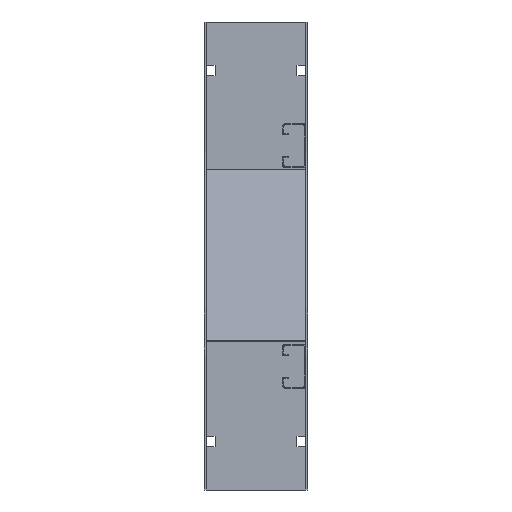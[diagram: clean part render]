
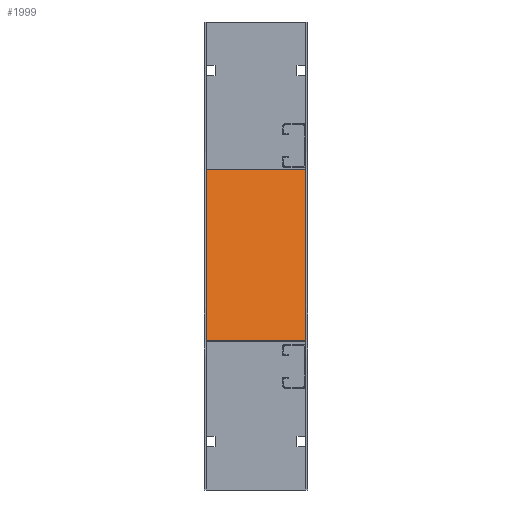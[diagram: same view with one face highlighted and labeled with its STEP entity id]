
A CAD part, left-side view. The second image highlights one B-rep face of the part: STEP entity #1999.
In plain terms, the highlighted planar face has unit normal (-0.5, 0, 0.866).
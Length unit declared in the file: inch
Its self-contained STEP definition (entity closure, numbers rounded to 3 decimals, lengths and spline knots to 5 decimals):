
#301=DIRECTION('',(-0.866,0.,-0.5));
#302=VECTOR('',#301,13.85641);
#303=CARTESIAN_POINT('',(-0.075,4.11,-5.9567));
#304=LINE('',#303,#302);
#537=DIRECTION('',(0.,1.,0.));
#538=VECTOR('',#537,4.03);
#539=CARTESIAN_POINT('',(-12.075,0.08,-12.8849));
#540=LINE('',#539,#538);
#721=DIRECTION('',(-0.866,0.,-0.5));
#722=VECTOR('',#721,13.85641);
#723=CARTESIAN_POINT('',(-0.075,0.08,-5.9567));
#724=LINE('',#723,#722);
#725=DIRECTION('',(0.,1.,0.));
#726=VECTOR('',#725,4.03);
#727=CARTESIAN_POINT('',(-0.075,0.08,-5.9567));
#728=LINE('',#727,#726);
#785=CARTESIAN_POINT('',(-0.075,0.08,-5.9567));
#786=CARTESIAN_POINT('',(-0.075,4.11,-5.9567));
#787=VERTEX_POINT('',#785);
#788=VERTEX_POINT('',#786);
#805=CARTESIAN_POINT('',(-12.075,0.08,-12.8849));
#806=CARTESIAN_POINT('',(-12.075,4.11,-12.8849));
#807=VERTEX_POINT('',#805);
#808=VERTEX_POINT('',#806);
#1988=CARTESIAN_POINT('',(-0.0375,0.08,-5.93505));
#1989=DIRECTION('',(-0.5,0.,0.866));
#1990=DIRECTION('',(0.,1.,0.));
#1991=AXIS2_PLACEMENT_3D('',#1988,#1989,#1990);
#1992=PLANE('',#1991);
#1993=ORIENTED_EDGE('',*,*,#1533,.T.);
#1994=ORIENTED_EDGE('',*,*,#1718,.T.);
#1995=ORIENTED_EDGE('',*,*,#1458,.F.);
#1996=ORIENTED_EDGE('',*,*,#1503,.F.);
#1997=EDGE_LOOP('',(#1993,#1994,#1995,#1996));
#1998=FACE_OUTER_BOUND('',#1997,.F.);
#1999=ADVANCED_FACE('',(#1998),#1992,.T.);
#1458=EDGE_CURVE('',#788,#808,#304,.T.);
#1503=EDGE_CURVE('',#787,#788,#728,.T.);
#1533=EDGE_CURVE('',#787,#807,#724,.T.);
#1718=EDGE_CURVE('',#807,#808,#540,.T.);
